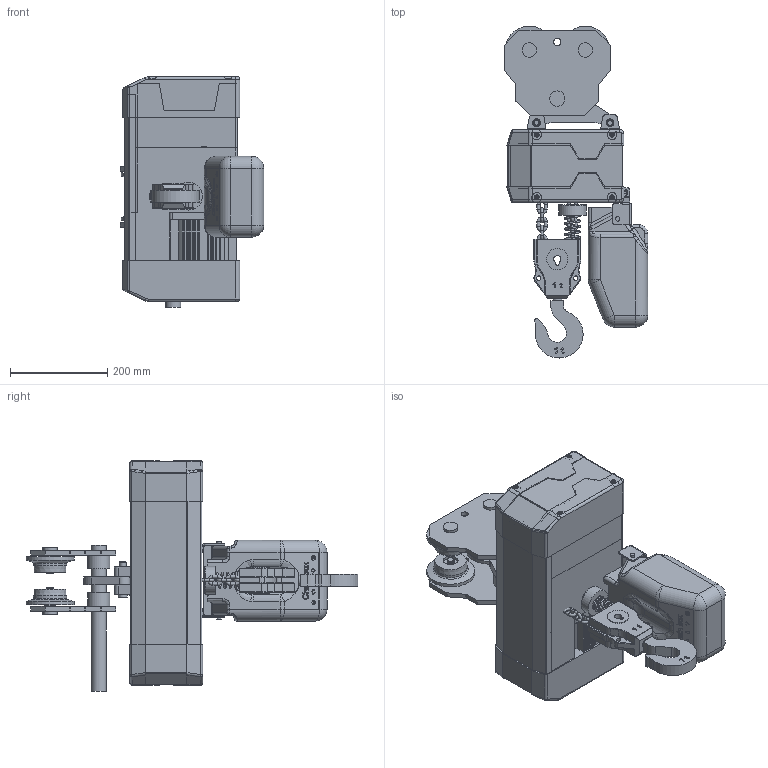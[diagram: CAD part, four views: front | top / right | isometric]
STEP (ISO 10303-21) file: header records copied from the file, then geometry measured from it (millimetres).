
FILE_DESCRIPTION(/* description */ (''),/* implementation_level */ '2;1');
FILE_NAME(/* name */ 'YJ 01-02 手拉式.stp',/* time_stamp */ '2026-07-08T09:00:15+08:00',/* author */ (''),/* organization */ (''),/* preprocessor_version */ 'ST-DEVELOPER v16.7',/* originating_system */ 'SIEMENS PLM Software NX 12.0',/* authorisation */ '');
FILE_SCHEMA (('AP203_CONFIGURATION_CONTROLLED_3D_DESIGN_OF_MECHANICAL_PARTS_AND_ASSEMBLIES_MIM_LF { 1 0 10303 403 2 1 2}'));
Products named in the file (1): A95BC464Ftyh8
Bounding box: 294.92 x 682.46 x 474.43 mm (x, y, z)
Volume: 13075628.1 mm3; surface area: 1580292.3 mm2
Topology: 22 solids, 28 shells, 2001 faces, 5029 edges, 3157 vertices
Faces by surface type: plane 963, cylinder 573, bspline 209, torus 107, cone 91, sphere 58
Full cylindrical faces by diameter (mm): 2.14 x1, 4 x2, 4.2 x4, 4.826 x4, 5.795 x4, 6 x2, 6.2 x3, 6.3 x20, 6.6 x8, 6.8 x4, 7.46 x2, 8.5 x4, 9 x7, 10 x4, 10.2 x8, 12.8 x4, 13.5 x4, 14 x2, 15 x10, 15.037 x4, 16 x2, 18 x2, 19.7 x1, 23.5 x4, 24.5 x4, 29.5 x4, 30.4 x4, 31.5 x3, 32 x2, 42 x4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
Entity records: 66438 total; most frequent: CARTESIAN_POINT 21074, ORIENTED_EDGE 9252, DIRECTION 8894, EDGE_CURVE 4626, AXIS2_PLACEMENT_3D 3134, VERTEX_POINT 3045, LINE 2626, VECTOR 2626
